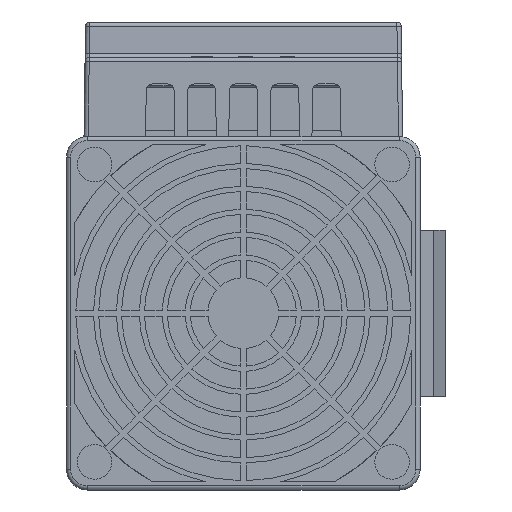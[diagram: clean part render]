
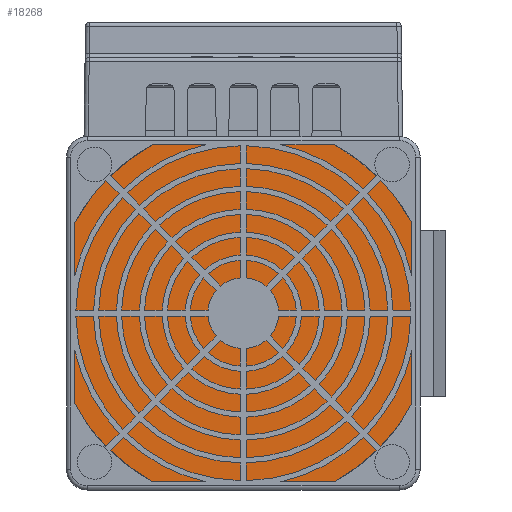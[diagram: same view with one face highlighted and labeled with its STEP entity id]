
A CAD part, front view. The second image highlights one B-rep face of the part: STEP entity #18268.
In plain terms, the highlighted planar face has unit normal (0, -1, 0).
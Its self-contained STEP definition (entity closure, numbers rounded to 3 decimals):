
#232 = VECTOR ( 'NONE', #18131, 1000. ) ;
#2303 = VERTEX_POINT ( 'NONE', #25590 ) ;
#2963 = LINE ( 'NONE', #26625, #16167 ) ;
#2979 = CARTESIAN_POINT ( 'NONE',  ( 411.812, -70.65, -24.2 ) ) ;
#3271 = DIRECTION ( 'NONE',  ( 1., 0., 0. ) ) ;
#3869 = DIRECTION ( 'NONE',  ( 1., 0., 0. ) ) ;
#4324 = DIRECTION ( 'NONE',  ( 0., 1., 0. ) ) ;
#5119 = DIRECTION ( 'NONE',  ( 0., 1., 0. ) ) ;
#6059 = EDGE_CURVE ( 'NONE', #21133, #2303, #17131, .T. ) ;
#6133 = DIRECTION ( 'NONE',  ( 1., 0., 0. ) ) ;
#6164 = AXIS2_PLACEMENT_3D ( 'NONE', #11963, #8196, #3271 ) ;
#6284 = PLANE ( 'NONE',  #6164 ) ;
#6888 = CARTESIAN_POINT ( 'NONE',  ( 390., -70.65, -64.7 ) ) ;
#7059 = EDGE_LOOP ( 'NONE', ( #19070, #12729, #13715, #39700, #31736, #16973, #35979, #36041 ) ) ;
#8196 = DIRECTION ( 'NONE',  ( 0., 1., 0. ) ) ;
#8841 = CARTESIAN_POINT ( 'NONE',  ( 349.5, -70.65, -86.512 ) ) ;
#9031 = LINE ( 'NONE', #39761, #232 ) ;
#9952 = AXIS2_PLACEMENT_3D ( 'NONE', #24508, #33825, #6133 ) ;
#11692 = CARTESIAN_POINT ( 'NONE',  ( 368.188, -70.65, -105.2 ) ) ;
#11816 = EDGE_CURVE ( 'NONE', #19059, #21133, #24737, .T. ) ;
#11963 = CARTESIAN_POINT ( 'NONE',  ( 390., -70.65, -64.7 ) ) ;
#12729 = ORIENTED_EDGE ( 'NONE', *, *, #14068, .F. ) ;
#13715 = ORIENTED_EDGE ( 'NONE', *, *, #27417, .F. ) ;
#14068 = EDGE_CURVE ( 'NONE', #22165, #35424, #22191, .T. ) ;
#14849 = EDGE_CURVE ( 'NONE', #35424, #38799, #39716, .T. ) ;
#14884 = DIRECTION ( 'NONE',  ( 0., 0., 1. ) ) ;
#15134 = CIRCLE ( 'NONE', #33863, 46. ) ;
#16167 = VECTOR ( 'NONE', #14884, 1000. ) ;
#16887 = CARTESIAN_POINT ( 'NONE',  ( 368.188, -70.65, -24.2 ) ) ;
#16973 = ORIENTED_EDGE ( 'NONE', *, *, #19025, .F. ) ;
#17045 = EDGE_CURVE ( 'NONE', #32283, #21353, #15134, .T. ) ;
#17131 = LINE ( 'NONE', #24519, #33521 ) ;
#18029 = FACE_OUTER_BOUND ( 'NONE', #7059, .T. ) ;
#18131 = DIRECTION ( 'NONE',  ( 1., 0., 0. ) ) ;
#18268 = ADVANCED_FACE ( 'NONE', ( #18029 ), #6284, .F. ) ;
#18457 = DIRECTION ( 'NONE',  ( 0., 0., -1. ) ) ;
#18987 = CIRCLE ( 'NONE', #9952, 46. ) ;
#19025 = EDGE_CURVE ( 'NONE', #21353, #19059, #9031, .T. ) ;
#19059 = VERTEX_POINT ( 'NONE', #2979 ) ;
#19070 = ORIENTED_EDGE ( 'NONE', *, *, #14849, .F. ) ;
#19213 = DIRECTION ( 'NONE',  ( 0., 1., 0. ) ) ;
#20421 = CARTESIAN_POINT ( 'NONE',  ( 411.812, -70.65, -105.2 ) ) ;
#21133 = VERTEX_POINT ( 'NONE', #28013 ) ;
#21353 = VERTEX_POINT ( 'NONE', #16887 ) ;
#22165 = VERTEX_POINT ( 'NONE', #20421 ) ;
#22191 = LINE ( 'NONE', #37756, #26758 ) ;
#22275 = AXIS2_PLACEMENT_3D ( 'NONE', #6888, #19213, #3869 ) ;
#23132 = DIRECTION ( 'NONE',  ( -1., 0., 0. ) ) ;
#24508 = CARTESIAN_POINT ( 'NONE',  ( 390., -70.65, -64.7 ) ) ;
#24519 = CARTESIAN_POINT ( 'NONE',  ( 430.5, -70.65, -73.755 ) ) ;
#24737 = CIRCLE ( 'NONE', #37012, 46. ) ;
#25590 = CARTESIAN_POINT ( 'NONE',  ( 430.5, -70.65, -86.512 ) ) ;
#26543 = DIRECTION ( 'NONE',  ( 1., 0., 0. ) ) ;
#26625 = CARTESIAN_POINT ( 'NONE',  ( 349.5, -70.65, -86.512 ) ) ;
#26758 = VECTOR ( 'NONE', #23132, 1000. ) ;
#27417 = EDGE_CURVE ( 'NONE', #2303, #22165, #18987, .T. ) ;
#28013 = CARTESIAN_POINT ( 'NONE',  ( 430.5, -70.65, -42.888 ) ) ;
#29257 = CARTESIAN_POINT ( 'NONE',  ( 349.5, -70.65, -42.888 ) ) ;
#31736 = ORIENTED_EDGE ( 'NONE', *, *, #11816, .F. ) ;
#32000 = CARTESIAN_POINT ( 'NONE',  ( 390., -70.65, -64.7 ) ) ;
#32180 = DIRECTION ( 'NONE',  ( 1., 0., 0. ) ) ;
#32283 = VERTEX_POINT ( 'NONE', #29257 ) ;
#32429 = EDGE_CURVE ( 'NONE', #38799, #32283, #2963, .T. ) ;
#33521 = VECTOR ( 'NONE', #18457, 1000. ) ;
#33825 = DIRECTION ( 'NONE',  ( 0., 1., 0. ) ) ;
#33863 = AXIS2_PLACEMENT_3D ( 'NONE', #39061, #5119, #32180 ) ;
#35424 = VERTEX_POINT ( 'NONE', #11692 ) ;
#35979 = ORIENTED_EDGE ( 'NONE', *, *, #17045, .F. ) ;
#36041 = ORIENTED_EDGE ( 'NONE', *, *, #32429, .F. ) ;
#37012 = AXIS2_PLACEMENT_3D ( 'NONE', #32000, #4324, #26543 ) ;
#37756 = CARTESIAN_POINT ( 'NONE',  ( 380.945, -70.65, -105.2 ) ) ;
#38799 = VERTEX_POINT ( 'NONE', #8841 ) ;
#39061 = CARTESIAN_POINT ( 'NONE',  ( 390., -70.65, -64.7 ) ) ;
#39700 = ORIENTED_EDGE ( 'NONE', *, *, #6059, .F. ) ;
#39716 = CIRCLE ( 'NONE', #22275, 46. ) ;
#39761 = CARTESIAN_POINT ( 'NONE',  ( 380.945, -70.65, -24.2 ) ) ;
